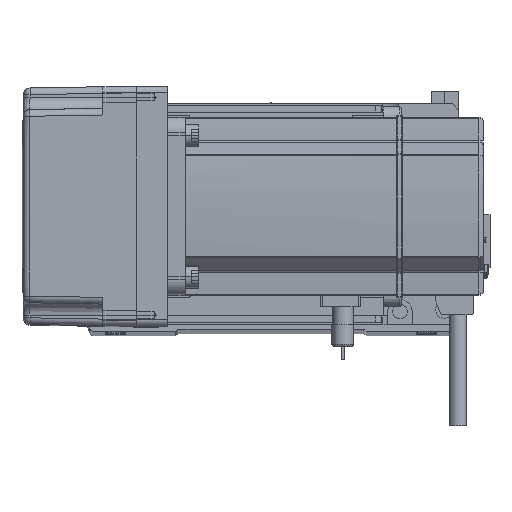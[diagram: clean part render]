
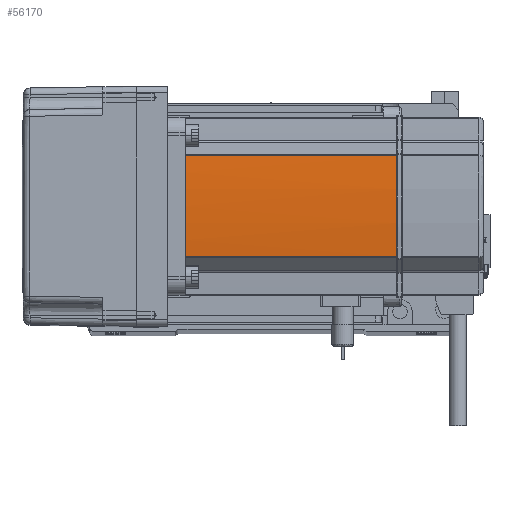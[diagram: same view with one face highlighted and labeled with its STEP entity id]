
A CAD part, top view. The second image highlights one B-rep face of the part: STEP entity #56170.
In plain terms, the highlighted cylindrical face has radius 270 mm (diameter 540 mm), a partial arc.
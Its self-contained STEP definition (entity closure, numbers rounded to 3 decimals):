
#689 = CARTESIAN_POINT ( 'NONE',  ( 39.042, -22.724, 134. ) ) ;
#2744 = DIRECTION ( 'NONE',  ( 0., 0., -1. ) ) ;
#4338 = LINE ( 'NONE', #29406, #47707 ) ;
#6148 = B_SPLINE_CURVE_WITH_KNOTS ( 'NONE', 3,
 ( #37367, #19069, #37744, #41946 ),
 .UNSPECIFIED., .F., .F.,
 ( 4, 4 ),
 ( 0., 1. ),
 .UNSPECIFIED. ) ;
#6475 = CARTESIAN_POINT ( 'NONE',  ( -230., 0., 134. ) ) ;
#6753 = DIRECTION ( 'NONE',  ( 0., 0., -1. ) ) ;
#7106 = CYLINDRICAL_SURFACE ( 'NONE', #10655, 270. ) ;
#7311 = CIRCLE ( 'NONE', #53681, 270. ) ;
#7767 = DIRECTION ( 'NONE',  ( 0., 0., -1. ) ) ;
#7902 = DIRECTION ( 'NONE',  ( -1., 0., 0. ) ) ;
#8273 = LINE ( 'NONE', #27516, #24649 ) ;
#9872 = CARTESIAN_POINT ( 'NONE',  ( 39.042, 22.724, 39. ) ) ;
#10116 = ORIENTED_EDGE ( 'NONE', *, *, #42076, .T. ) ;
#10655 = AXIS2_PLACEMENT_3D ( 'NONE', #12229, #2744, #12427 ) ;
#12229 = CARTESIAN_POINT ( 'NONE',  ( -230., 0., 58. ) ) ;
#12427 = DIRECTION ( 'NONE',  ( -1., 0., 0. ) ) ;
#15303 = AXIS2_PLACEMENT_3D ( 'NONE', #48243, #57545, #7902 ) ;
#16849 = CARTESIAN_POINT ( 'NONE',  ( 39.042, 22.724, 134. ) ) ;
#19069 = CARTESIAN_POINT ( 'NONE',  ( 40., -0.042, 134. ) ) ;
#19525 = EDGE_CURVE ( 'NONE', #44484, #41717, #34582, .T. ) ;
#24649 = VECTOR ( 'NONE', #54670, 1000. ) ;
#25521 = VERTEX_POINT ( 'NONE', #9872 ) ;
#26034 = CARTESIAN_POINT ( 'NONE',  ( -230., 0., 134. ) ) ;
#27516 = CARTESIAN_POINT ( 'NONE',  ( 39.042, 22.724, 58. ) ) ;
#27729 = CARTESIAN_POINT ( 'NONE',  ( 39.042, -22.724, 39. ) ) ;
#28616 = ORIENTED_EDGE ( 'NONE', *, *, #58378, .T. ) ;
#29406 = CARTESIAN_POINT ( 'NONE',  ( 39.042, -22.724, 58. ) ) ;
#32473 = EDGE_CURVE ( 'NONE', #25521, #55048, #45553, .T. ) ;
#34139 = DIRECTION ( 'NONE',  ( -1., 0., 0. ) ) ;
#34582 = CIRCLE ( 'NONE', #51997, 270. ) ;
#35511 = ORIENTED_EDGE ( 'NONE', *, *, #55724, .T. ) ;
#35587 = FACE_OUTER_BOUND ( 'NONE', #51860, .T. ) ;
#36617 = VERTEX_POINT ( 'NONE', #689 ) ;
#37367 = CARTESIAN_POINT ( 'NONE',  ( 40., -0.127, 134. ) ) ;
#37744 = CARTESIAN_POINT ( 'NONE',  ( 40., 0.042, 134. ) ) ;
#38092 = DIRECTION ( 'NONE',  ( 0., 0., -1. ) ) ;
#38295 = CARTESIAN_POINT ( 'NONE',  ( 40., -0.127, 134. ) ) ;
#39161 = EDGE_CURVE ( 'NONE', #58389, #41717, #6148, .T. ) ;
#40468 = ORIENTED_EDGE ( 'NONE', *, *, #19525, .T. ) ;
#41711 = ORIENTED_EDGE ( 'NONE', *, *, #39161, .F. ) ;
#41717 = VERTEX_POINT ( 'NONE', #47206 ) ;
#41946 = CARTESIAN_POINT ( 'NONE',  ( 40., 0.127, 134. ) ) ;
#42076 = EDGE_CURVE ( 'NONE', #25521, #44484, #8273, .T. ) ;
#44484 = VERTEX_POINT ( 'NONE', #16849 ) ;
#45553 = CIRCLE ( 'NONE', #15303, 270. ) ;
#47206 = CARTESIAN_POINT ( 'NONE',  ( 40., 0.127, 134. ) ) ;
#47707 = VECTOR ( 'NONE', #6753, 1000. ) ;
#48243 = CARTESIAN_POINT ( 'NONE',  ( -230., 0., 39. ) ) ;
#51860 = EDGE_LOOP ( 'NONE', ( #35511, #58310, #10116, #40468, #41711, #28616 ) ) ;
#51997 = AXIS2_PLACEMENT_3D ( 'NONE', #26034, #7767, #58014 ) ;
#53681 = AXIS2_PLACEMENT_3D ( 'NONE', #6475, #38092, #34139 ) ;
#54670 = DIRECTION ( 'NONE',  ( 0., 0., 1. ) ) ;
#55048 = VERTEX_POINT ( 'NONE', #27729 ) ;
#55724 = EDGE_CURVE ( 'NONE', #36617, #55048, #4338, .T. ) ;
#56170 = ADVANCED_FACE ( 'NONE', ( #35587 ), #7106, .T. ) ;
#57545 = DIRECTION ( 'NONE',  ( 0., 0., -1. ) ) ;
#58014 = DIRECTION ( 'NONE',  ( -1., 0., 0. ) ) ;
#58310 = ORIENTED_EDGE ( 'NONE', *, *, #32473, .F. ) ;
#58378 = EDGE_CURVE ( 'NONE', #58389, #36617, #7311, .T. ) ;
#58389 = VERTEX_POINT ( 'NONE', #38295 ) ;
